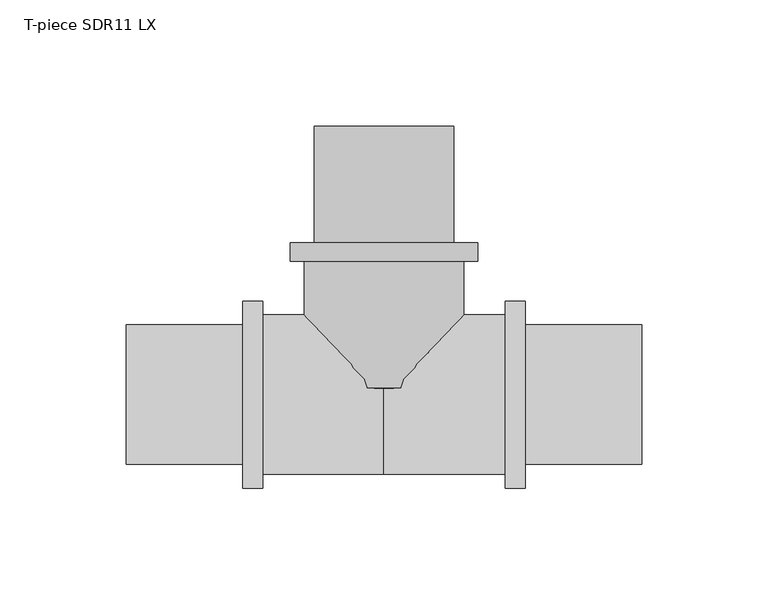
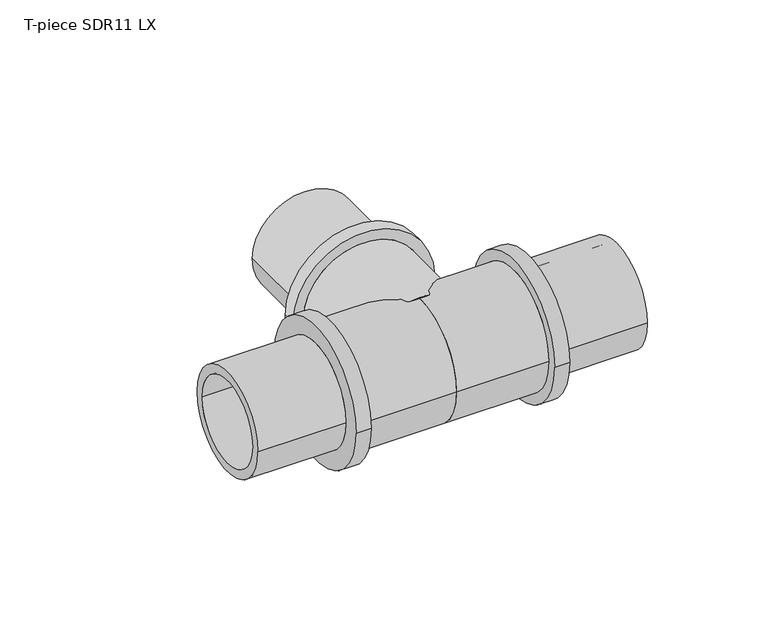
"""IFC4 building model written with IfcOpenShell, lengths in millimetres: pipe fitting geometry, T-piece SDR11 LX : T-piece LX SDR11 LX."""

import ifcopenshell
import ifcopenshell.guid

model = None  # the IFC model being written
_history = None  # IfcOwnerHistory: only IFC2X3 demands one
_inside = {}  # id of a spatial element -> (the spatial element, [elements in it])
_under = {}  # id of a project, library or spatial element -> (it, [spatial elements below it])
_declared = {}  # id of a project -> (the project, [libraries it declares])
_typed = {}  # id of a type object -> (the type object, [elements of that type])
_made_of = {}  # id of a material, layer set ... -> (it, [elements and type objects made of it])


def new_model(schema):
    """Start an empty IFC model of exactly this schema.

    Asked for "IFC4X3", IfcOpenShell would pick the latest addendum, in which some entities
    have other attributes; the version numbers below select the first issue.
    IFC2X3 requires an IfcOwnerHistory on every rooted entity: one is made here for all.
    """
    global model, _history
    if schema == "IFC4X3":
        model = ifcopenshell.file(schema_version=(4, 3, 0, 0))
    else:
        model = ifcopenshell.file(schema=schema)
    _inside.clear()
    _under.clear()
    _declared.clear()
    _typed.clear()
    _made_of.clear()
    _history = None
    if model.schema == "IFC2X3":
        org = make("IfcOrganization", Name="unknown")
        user = make(
            "IfcPersonAndOrganization",
            ThePerson=make("IfcPerson", FamilyName="unknown"),
            TheOrganization=org,
        )
        app = make(
            "IfcApplication",
            ApplicationDeveloper=org,
            Version="unknown",
            ApplicationFullName="unknown",
            ApplicationIdentifier="unknown",
        )
        _history = make(
            "IfcOwnerHistory",
            OwningUser=user,
            OwningApplication=app,
            ChangeAction="ADDED",
            CreationDate=0,
        )
    return model


def make(cls, **values):
    """One entity of the class cls with the attributes given. An attribute that is None is left unset."""
    return model.create_entity(
        cls, **{name: value for name, value in values.items() if value is not None}
    )


def rooted(cls, **values):
    """An entity with a GlobalId (a new one), such as an element, a storey or a relation."""
    return make(cls, GlobalId=ifcopenshell.guid.new(), OwnerHistory=_history, **values)


def si_unit(unit_type, name, prefix=None):
    """IfcSIUnit, for example si_unit("LENGTHUNIT", "METRE", prefix="MILLI")."""
    return make("IfcSIUnit", UnitType=unit_type, Prefix=prefix, Name=name)


def assignment(units):
    """IfcUnitAssignment: the units of a project."""
    return None if units is None else make("IfcUnitAssignment", Units=units)


def point(xyz):
    """IfcCartesianPoint."""
    return None if xyz is None else make("IfcCartesianPoint", Coordinates=xyz)


def direction(xyz):
    """IfcDirection."""
    return None if xyz is None else make("IfcDirection", DirectionRatios=xyz)


def frame(location, z_axis=None, x_axis=None):
    """IfcAxis2Placement3D, a coordinate frame: its origin and axes. An axis left out is left unset."""
    return make(
        "IfcAxis2Placement3D",
        Location=point(location),
        Axis=direction(z_axis),
        RefDirection=direction(x_axis),
    )


def origin():
    """The frame at (0, 0, 0) with its axes left unset."""
    return frame((0.0, 0.0, 0.0))


def place(relative_to, where):
    """IfcLocalPlacement: puts the frame where relative to a parent placement (None: the world)."""
    return make(
        "IfcLocalPlacement", PlacementRelTo=relative_to, RelativePlacement=where
    )


def context(
    kind, dimensions, precision=None, world=None, true_north=None, identifier=None
):
    """IfcGeometricRepresentationContext, for example the 3D "Model" context."""
    return make(
        "IfcGeometricRepresentationContext",
        ContextIdentifier=identifier,
        ContextType=kind,
        CoordinateSpaceDimension=dimensions,
        Precision=precision,
        WorldCoordinateSystem=world,
        TrueNorth=true_north,
    )


def project(units=None, contexts=None):
    """IfcProject with its units and contexts."""
    return rooted(
        "IfcProject",
        Name="project",
        RepresentationContexts=contexts,
        UnitsInContext=assignment(units),
    )


def spatial(cls, under=None, at=None, **own):
    """A site, building, storey or space (cls), placed at a placement, below another one or the project."""
    s = rooted(cls, ObjectPlacement=at, **own)
    if under is not None:
        _under.setdefault(under.id(), (under, []))[1].append(s)
    return s


def polyline(points):
    """IfcPolyline through the points."""
    return make("IfcPolyline", Points=[point(p) for p in points])


def circle_curve(where, radius):
    """IfcCircle in the frame where."""
    return make("IfcCircle", Position=where, Radius=radius)


def ellipse_curve(where, semi_axis1, semi_axis2):
    """IfcEllipse in the frame where."""
    return make(
        "IfcEllipse", Position=where, SemiAxis1=semi_axis1, SemiAxis2=semi_axis2
    )


def trimmed(basis, trim1, trim2, sense, master):
    """IfcTrimmedCurve: the piece of a basis curve between two trims."""
    return make(
        "IfcTrimmedCurve",
        BasisCurve=basis,
        Trim1=trim1,
        Trim2=trim2,
        SenseAgreement=sense,
        MasterRepresentation=master,
    )


def shape(context_of_items, identifier, shape_type, items):
    """IfcShapeRepresentation: the items that make up one representation, for example the "Body"."""
    return make(
        "IfcShapeRepresentation",
        ContextOfItems=context_of_items,
        RepresentationIdentifier=identifier,
        RepresentationType=shape_type,
        Items=items,
    )


def source(mapping_origin, context_of_items, identifier, shape_type, items):
    """IfcRepresentationMap: a shape defined once, which mapped items show again and again."""
    return make(
        "IfcRepresentationMap",
        MappingOrigin=mapping_origin,
        MappedRepresentation=shape(context_of_items, identifier, shape_type, items),
    )


def transform(
    local_origin,
    x_axis=None,
    y_axis=None,
    z_axis=None,
    scale=None,
    scale2=None,
    scale3=None,
    uniform=True,
):
    """IfcCartesianTransformationOperator3D, or its non-uniform kind. x_axis, y_axis, z_axis: its Axis1, 2, 3."""
    if uniform:
        return make(
            "IfcCartesianTransformationOperator3D",
            Axis1=direction(x_axis),
            Axis2=direction(y_axis),
            LocalOrigin=point(local_origin),
            Scale=scale,
            Axis3=direction(z_axis),
        )
    return make(
        "IfcCartesianTransformationOperator3DnonUniform",
        Axis1=direction(x_axis),
        Axis2=direction(y_axis),
        LocalOrigin=point(local_origin),
        Scale=scale,
        Axis3=direction(z_axis),
        Scale2=scale2,
        Scale3=scale3,
    )


def mapped(mapping_source, mapping_target):
    """IfcMappedItem: shows the shape of a source again, moved by a transform."""
    return make(
        "IfcMappedItem", MappingSource=mapping_source, MappingTarget=mapping_target
    )


def made_of(thing, what):
    """Note that an element or type object is made of a material, layer set ...; save() writes the relation."""
    if what is not None:
        _made_of.setdefault(what.id(), (what, []))[1].append(thing)
    return thing


def element(
    cls,
    number,
    at=None,
    inside=None,
    cuts=None,
    type_object=None,
    material=None,
    context=None,
    identifier="Body",
    shape_type=None,
    held_by="IfcProductDefinitionShape",
    body=None,
    shapes=None,
    **own,
):
    """One element of the class cls, such as IfcWall. Its Tag is "e" and its number.

    at: its placement. inside: the storey or other place that contains it. cuts: it is an
    opening in that element (IfcRelVoidsElement). A single representation is given by context,
    identifier, shape_type and body (its items); several are given by shapes. held_by: the class
    of the entity that holds the representations. save() writes the other relations.
    """
    e = rooted(cls, Tag="e%d" % number, ObjectPlacement=at, **own)
    if body is not None:
        shapes = [shape(context, identifier, shape_type, body)]
    if shapes is not None:
        e.Representation = make(held_by, Representations=shapes)
    if inside is not None:
        _inside.setdefault(inside.id(), (inside, []))[1].append(e)
    if cuts is not None:
        rooted(
            "IfcRelVoidsElement", RelatingBuildingElement=cuts, RelatedOpeningElement=e
        )
    if type_object is not None:
        _typed.setdefault(type_object.id(), (type_object, []))[1].append(e)
    return made_of(e, material)


def aggregate(whole, parts):
    """IfcRelAggregates: a whole, such as a stair, and the parts it consists of."""
    return rooted("IfcRelAggregates", RelatingObject=whole, RelatedObjects=parts)


def save(model, path):
    """Write the relations noted so far, then the file.

    IfcRelAggregates (storeys below a building ...), IfcRelContainedInSpatialStructure (elements
    in a storey), IfcRelDefinesByType, IfcRelAssociatesMaterial and IfcRelDeclares: one each for
    every whole, place, type object, material and project.
    """
    for whole, parts in _under.values():
        aggregate(whole, parts)
    for where, things in _inside.values():
        rooted(
            "IfcRelContainedInSpatialStructure",
            RelatedElements=things,
            RelatingStructure=where,
        )
    for kind, things in _typed.values():
        rooted("IfcRelDefinesByType", RelatedObjects=things, RelatingType=kind)
    for what, things in _made_of.values():
        rooted("IfcRelAssociatesMaterial", RelatedObjects=things, RelatingMaterial=what)
    for by, libraries in _declared.values():
        rooted("IfcRelDeclares", RelatingContext=by, RelatedDefinitions=libraries)
    model.write(path)


def plane_surface(at):
    """IfcPlane: the flat surface through the origin of the frame at, square to its z axis."""
    return make("IfcPlane", Position=at)


def cylinder_surface(at, radius):
    """IfcCylindricalSurface: all points at the distance radius from the z axis of the frame at."""
    return make("IfcCylindricalSurface", Position=at, Radius=radius)


def revolved_surface(curve, axis_point, axis_direction):
    """IfcSurfaceOfRevolution: the curve turned about the line through axis_point along axis_direction."""
    return make(
        "IfcSurfaceOfRevolution",
        SweptCurve=make("IfcArbitraryOpenProfileDef", ProfileType="CURVE", Curve=curve),
        AxisPosition=make("IfcAxis1Placement", Location=point(axis_point), Axis=direction(axis_direction)),
    )


def advanced_brep(points, edges, surfaces, faces):
    """IfcAdvancedBrep: a solid bounded by faces that lie on surfaces and meet in shared edges.

    An edge is (start, end): straight between two places in points (the first is 0);
    or (start, end, curve); or (start, end, curve, False) where it runs against its curve.
    A face is (place in surfaces, loops), or (place, loops, False) where it looks against
    its surface's normal. A loop lists edges by number (the first is 1), with a minus sign
    where the edge is run from its end to its start. The first loop is the outer one.
    """
    corners = [point(p) for p in points]
    vertices = [make("IfcVertexPoint", VertexGeometry=c) for c in corners]
    made = []
    for start, end, *more in edges:
        made.append(
            make(
                "IfcEdgeCurve",
                EdgeStart=vertices[start],
                EdgeEnd=vertices[end],
                EdgeGeometry=more[0] if more else make("IfcPolyline", Points=[corners[start], corners[end]]),
                SameSense=more[1] if len(more) > 1 else True,
            )
        )
    hull = []
    for where, loops, *sense in faces:
        bounds = []
        for j, loop in enumerate(loops):
            ring = [make("IfcOrientedEdge", EdgeElement=made[abs(k) - 1], Orientation=k > 0) for k in loop]
            bounds.append(
                make(
                    "IfcFaceOuterBound" if j == 0 else "IfcFaceBound",
                    Bound=make("IfcEdgeLoop", EdgeList=ring),
                    Orientation=True,
                )
            )
        hull.append(make("IfcAdvancedFace", Bounds=bounds, FaceSurface=surfaces[where], SameSense=sense[0] if sense else True))
    return make("IfcAdvancedBrep", Outer=make("IfcClosedShell", CfsFaces=hull))


def t_piece_sdr11_lx_81dca7c0(model_context):
    return source(origin(), model_context, "Body", "AdvancedBrep", [
        advanced_brep(
        [(31.5, 2.6805039, 0.0), (-31.5, 2.6805039, 0.0), (-31.5, 52.8, 0.0), (31.5, 52.8, 0.0), (22.75, 106.0, 0.0), (-22.75, 106.0, 0.0), (-22.75, 0.0, 0.0), (22.75, 0.0, 0.0), (27.55, 60.0, 0.0), (-27.55, 60.0, 0.0), (-27.55, 106.0, 0.0), (27.55, 106.0, 0.0), (37.0, 52.8, 0.0), (-37.0, 52.8, 0.0), (-37.0, 60.0, 0.0), (37.0, 60.0, 0.0)],
        [
            (0, 1, circle_curve(frame((0.0, 2.6805039, 0.0), z_axis=(0.0, 1.0, 0.0), x_axis=(-1.0, 0.0, 0.0)), 31.5)),
            (1, 2),
            (2, 3, circle_curve(frame((0.0, 52.8, 0.0), z_axis=(0.0, -1.0, 0.0), x_axis=(-1.0, 0.0, 0.0)), 31.5)),
            (3, 0),
            (4, 5, circle_curve(frame((0.0, 106.0, 0.0), z_axis=(0.0, 1.0, 0.0), x_axis=(-1.0, 0.0, 0.0)), 22.75)),
            (5, 6),
            (6, 7, circle_curve(frame((0.0, 0.0, 0.0), z_axis=(0.0, -1.0, 0.0), x_axis=(-1.0, 0.0, 0.0)), 22.75)),
            (7, 4),
            (8, 9, circle_curve(frame((0.0, 60.0, 0.0), z_axis=(0.0, 1.0, 0.0), x_axis=(-1.0, 0.0, 0.0)), 27.55)),
            (9, 10),
            (10, 11, circle_curve(frame((0.0, 106.0, 0.0), z_axis=(0.0, -1.0, 0.0), x_axis=(-1.0, 0.0, 0.0)), 27.55)),
            (11, 8),
            (12, 13, circle_curve(frame((0.0, 52.8, 0.0), z_axis=(0.0, 1.0, 0.0), x_axis=(-1.0, 0.0, 0.0)), 37.0)),
            (13, 14),
            (14, 15, circle_curve(frame((0.0, 60.0, 0.0), z_axis=(0.0, -1.0, 0.0), x_axis=(-1.0, 0.0, 0.0)), 37.0)),
            (15, 12),
            (12, 13, circle_curve(frame((0.0, 52.8, 0.0), z_axis=(0.0, -1.0, 0.0), x_axis=(1.0, 0.0, 0.0)), 37.0)),
            (2, 3, circle_curve(frame((0.0, 52.8, 0.0), z_axis=(0.0, 1.0, 0.0), x_axis=(1.0, 0.0, 0.0)), 31.5)),
            (1, 0, circle_curve(frame((0.0, 2.6805039, 0.0), z_axis=(0.0, 1.0, 0.0), x_axis=(1.0, 0.0, 0.0)), 31.5)),
            (5, 4, circle_curve(frame((0.0, 106.0, 0.0), z_axis=(0.0, 1.0, 0.0), x_axis=(1.0, 0.0, 0.0)), 22.75)),
            (7, 6, circle_curve(frame((0.0, 0.0, 0.0), z_axis=(0.0, -1.0, 0.0), x_axis=(1.0, 0.0, 0.0)), 22.75)),
            (10, 11, circle_curve(frame((0.0, 106.0, 0.0), z_axis=(0.0, 1.0, 0.0), x_axis=(1.0, 0.0, 0.0)), 27.55)),
            (9, 8, circle_curve(frame((0.0, 60.0, 0.0), z_axis=(0.0, 1.0, 0.0), x_axis=(1.0, 0.0, 0.0)), 27.55)),
            (14, 15, circle_curve(frame((0.0, 60.0, 0.0), z_axis=(0.0, 1.0, 0.0), x_axis=(1.0, 0.0, 0.0)), 37.0)),
            (6, 1, circle_curve(frame((-17.9962802, 31.1392381, 0.0), z_axis=(0.0, 0.0, -1.0), x_axis=(0.0, -1.0, 0.0)), 31.5)),
            (0, 7, circle_curve(frame((17.9962802, 31.1392381, 0.0), z_axis=(0.0, 0.0, -1.0), x_axis=(0.0, -1.0, 0.0)), 31.5)),
        ],
        [
            cylinder_surface(frame((0.0, 0.0, 0.0), z_axis=(0.0, -1.0, 0.0), x_axis=(-1.0, 0.0, 0.0)), 31.5),
            revolved_surface(polyline([(-22.75, 0.0, 0.0), (-22.75, 106.0, 0.0)]), (0.0, 0.0, 0.0), (0.0, -1.0, 0.0)),
            cylinder_surface(frame((0.0, 0.0, 0.0), z_axis=(0.0, -1.0, 0.0), x_axis=(-1.0, 0.0, 0.0)), 27.55),
            cylinder_surface(frame((0.0, 0.0, 0.0), z_axis=(0.0, -1.0, 0.0), x_axis=(-1.0, 0.0, 0.0)), 37.0),
            plane_surface(frame((0.0, 52.8, 0.0), z_axis=(0.0, -1.0, 0.0), x_axis=(1.0, 0.0, 0.0))),
            cylinder_surface(frame((0.0, 0.0, 0.0), z_axis=(0.0, -1.0, 0.0), x_axis=(1.0, 0.0, 0.0)), 31.5),
            revolved_surface(polyline([(22.75, 0.0, 0.0), (22.75, 106.0, 0.0)]), (0.0, 0.0, 0.0), (0.0, -1.0, 0.0)),
            plane_surface(frame((0.0, 106.0, 0.0), z_axis=(0.0, 1.0, 0.0), x_axis=(1.0, 0.0, 0.0))),
            cylinder_surface(frame((0.0, 0.0, 0.0), z_axis=(0.0, -1.0, 0.0), x_axis=(1.0, 0.0, 0.0)), 27.55),
            plane_surface(frame((0.0, 60.0, 0.0), z_axis=(0.0, 1.0, 0.0), x_axis=(1.0, 0.0, 0.0))),
            cylinder_surface(frame((0.0, 0.0, 0.0), z_axis=(0.0, -1.0, 0.0), x_axis=(1.0, 0.0, 0.0)), 37.0),
            revolved_surface(trimmed(ellipse_curve(frame((-17.9962802, 31.1392381, 0.0), z_axis=(0.0, 0.0, 1.0), x_axis=(0.0, -1.0, 0.0)), 31.5, 31.5), [point((-31.5, 2.6805039, 0.0))], [point((-22.75, 0.0, 0.0))], True, "CARTESIAN"), (0.0, 0.0, 0.0), (0.0, -1.0, 0.0)),
            revolved_surface(trimmed(ellipse_curve(frame((17.9962802, 31.1392381, 0.0), z_axis=(0.0, 0.0, -1.0), x_axis=(0.0, -1.0, 0.0)), 31.5, 31.5), [point((31.5, 2.6805039, 0.0))], [point((22.75, 0.0, 0.0))], True, "CARTESIAN"), (0.0, 0.0, 0.0), (0.0, -1.0, 0.0)),
        ],
        [
            (0, [[1, 2, 3, 4]]),
            (1, [[5, 6, 7, 8]]),
            (2, [[9, 10, 11, 12]]),
            (3, [[13, 14, 15, 16]]),
            (4, [[17, -13], [18, -3]]),
            (5, [[19, -4, -18, -2]]),
            (6, [[20, -8, 21, -6]]),
            (7, [[22, -11], [-20, -5]]),
            (8, [[23, -12, -22, -10]]),
            (9, [[24, -15], [-23, -9]]),
            (10, [[-17, -16, -24, -14]]),
            (11, [[-7, 25, -1, 26]]),
            (12, [[-21, -26, -19, -25]]),
        ],
    ),
        advanced_brep(
        [(48.0, 31.5, 0.0), (48.0, -31.5, 0.0), (0.0, -31.5, 0.0), (0.0, 31.5, 0.0), (0.0, 22.75, 0.0), (0.0, -22.75, 0.0), (101.8, -22.75, 0.0), (101.8, 22.75, 0.0), (101.8, 27.55, 0.0), (101.8, -27.55, 0.0), (55.8, -27.55, 0.0), (55.8, 27.55, 0.0), (55.8, 37.0, 0.0), (55.8, -37.0, 0.0), (48.0, -37.0, 0.0), (48.0, 37.0, 0.0)],
        [
            (0, 1, circle_curve(frame((48.0, 0.0, 0.0), z_axis=(-1.0, 0.0, 0.0), x_axis=(0.0, -1.0, 0.0)), 31.5)),
            (1, 2),
            (2, 3, circle_curve(frame((0.0, 0.0, 0.0), z_axis=(1.0, 0.0, 0.0), x_axis=(0.0, -1.0, 0.0)), 31.5)),
            (3, 0),
            (4, 5, circle_curve(frame((0.0, 0.0, 0.0), z_axis=(-1.0, 0.0, 0.0), x_axis=(0.0, -1.0, 0.0)), 22.75)),
            (5, 6),
            (6, 7, circle_curve(frame((101.8, 0.0, 0.0), z_axis=(1.0, 0.0, 0.0), x_axis=(0.0, -1.0, 0.0)), 22.75)),
            (7, 4),
            (8, 9, circle_curve(frame((101.8, 0.0, 0.0), z_axis=(-1.0, 0.0, 0.0), x_axis=(0.0, -1.0, 0.0)), 27.55)),
            (9, 10),
            (10, 11, circle_curve(frame((55.8, 0.0, 0.0), z_axis=(1.0, 0.0, 0.0), x_axis=(0.0, -1.0, 0.0)), 27.55)),
            (11, 8),
            (12, 13, circle_curve(frame((55.8, 0.0, 0.0), z_axis=(-1.0, 0.0, 0.0), x_axis=(0.0, -1.0, 0.0)), 37.0)),
            (13, 14),
            (14, 15, circle_curve(frame((48.0, 0.0, 0.0), z_axis=(1.0, 0.0, 0.0), x_axis=(0.0, -1.0, 0.0)), 37.0)),
            (15, 12),
            (14, 15, circle_curve(frame((48.0, 0.0, 0.0), z_axis=(-1.0, 0.0, 0.0), x_axis=(0.0, 1.0, 0.0)), 37.0)),
            (0, 1, circle_curve(frame((48.0, 0.0, 0.0), z_axis=(1.0, 0.0, 0.0), x_axis=(0.0, 1.0, 0.0)), 31.5)),
            (3, 2, circle_curve(frame((0.0, 0.0, 0.0), z_axis=(1.0, 0.0, 0.0), x_axis=(0.0, 1.0, 0.0)), 31.5)),
            (4, 5, circle_curve(frame((0.0, 0.0, 0.0), z_axis=(1.0, 0.0, 0.0), x_axis=(0.0, 1.0, 0.0)), 22.75)),
            (7, 6, circle_curve(frame((101.8, 0.0, 0.0), z_axis=(1.0, 0.0, 0.0), x_axis=(0.0, 1.0, 0.0)), 22.75)),
            (8, 9, circle_curve(frame((101.8, 0.0, 0.0), z_axis=(1.0, 0.0, 0.0), x_axis=(0.0, 1.0, 0.0)), 27.55)),
            (11, 10, circle_curve(frame((55.8, 0.0, 0.0), z_axis=(1.0, 0.0, 0.0), x_axis=(0.0, 1.0, 0.0)), 27.55)),
            (12, 13, circle_curve(frame((55.8, 0.0, 0.0), z_axis=(1.0, 0.0, 0.0), x_axis=(0.0, 1.0, 0.0)), 37.0)),
        ],
        [
            cylinder_surface(frame((0.0, 0.0, 0.0), z_axis=(1.0, 0.0, 0.0), x_axis=(0.0, -1.0, 0.0)), 31.5),
            revolved_surface(polyline([(101.8, -22.75, 0.0), (0.0, -22.75, 0.0)]), (0.0, 0.0, 0.0), (1.0, 0.0, 0.0)),
            cylinder_surface(frame((0.0, 0.0, 0.0), z_axis=(1.0, 0.0, 0.0), x_axis=(0.0, -1.0, 0.0)), 27.55),
            cylinder_surface(frame((0.0, 0.0, 0.0), z_axis=(1.0, 0.0, 0.0), x_axis=(0.0, -1.0, 0.0)), 37.0),
            plane_surface(frame((48.0, 0.0, 0.0), z_axis=(-1.0, 0.0, 0.0), x_axis=(0.0, 1.0, 0.0))),
            cylinder_surface(frame((0.0, 0.0, 0.0), z_axis=(1.0, 0.0, 0.0), x_axis=(0.0, 1.0, 0.0)), 31.5),
            plane_surface(frame((0.0, 0.0, 0.0), z_axis=(-1.0, 0.0, 0.0), x_axis=(0.0, 1.0, 0.0))),
            revolved_surface(polyline([(101.8, 22.75, 0.0), (0.0, 22.75, 0.0)]), (0.0, 0.0, 0.0), (1.0, 0.0, 0.0)),
            plane_surface(frame((101.8, 0.0, 0.0), z_axis=(1.0, 0.0, 0.0), x_axis=(0.0, 1.0, 0.0))),
            cylinder_surface(frame((0.0, 0.0, 0.0), z_axis=(1.0, 0.0, 0.0), x_axis=(0.0, 1.0, 0.0)), 27.55),
            plane_surface(frame((55.8, 0.0, 0.0), z_axis=(1.0, 0.0, 0.0), x_axis=(0.0, 1.0, 0.0))),
            cylinder_surface(frame((0.0, 0.0, 0.0), z_axis=(1.0, 0.0, 0.0), x_axis=(0.0, 1.0, 0.0)), 37.0),
        ],
        [
            (0, [[1, 2, 3, 4]]),
            (1, [[5, 6, 7, 8]]),
            (2, [[9, 10, 11, 12]]),
            (3, [[13, 14, 15, 16]]),
            (4, [[17, -15], [18, -1]]),
            (5, [[-18, -4, 19, -2]]),
            (6, [[-19, -3], [20, -5]]),
            (7, [[-20, -8, 21, -6]]),
            (8, [[22, -9], [-21, -7]]),
            (9, [[-22, -12, 23, -10]]),
            (10, [[24, -13], [-23, -11]]),
            (11, [[-24, -16, -17, -14]]),
        ],
    ),
        advanced_brep(
        [(0.0, 31.5, 0.0), (0.0, -31.5, 0.0), (-48.0, -31.5, 0.0), (-48.0, 31.5, 0.0), (-101.8, 22.75, 0.0), (-101.8, -22.75, 0.0), (0.0, -22.75, 0.0), (0.0, 22.75, 0.0), (-55.8, 27.55, 0.0), (-55.8, -27.55, 0.0), (-101.8, -27.55, 0.0), (-101.8, 27.55, 0.0), (-48.0, 37.0, 0.0), (-48.0, -37.0, 0.0), (-55.8, -37.0, 0.0), (-55.8, 37.0, 0.0)],
        [
            (0, 1, circle_curve(frame((0.0, 0.0, 0.0), z_axis=(-1.0, 0.0, 0.0), x_axis=(0.0, -1.0, 0.0)), 31.5)),
            (1, 2),
            (2, 3, circle_curve(frame((-48.0, 0.0, 0.0), z_axis=(1.0, 0.0, 0.0), x_axis=(0.0, -1.0, 0.0)), 31.5)),
            (3, 0),
            (4, 5, circle_curve(frame((-101.8, 0.0, 0.0), z_axis=(-1.0, 0.0, 0.0), x_axis=(0.0, -1.0, 0.0)), 22.75)),
            (5, 6),
            (6, 7, circle_curve(frame((0.0, 0.0, 0.0), z_axis=(1.0, 0.0, 0.0), x_axis=(0.0, -1.0, 0.0)), 22.75)),
            (7, 4),
            (8, 9, circle_curve(frame((-55.8, 0.0, 0.0), z_axis=(-1.0, 0.0, 0.0), x_axis=(0.0, -1.0, 0.0)), 27.55)),
            (9, 10),
            (10, 11, circle_curve(frame((-101.8, 0.0, 0.0), z_axis=(1.0, 0.0, 0.0), x_axis=(0.0, -1.0, 0.0)), 27.55)),
            (11, 8),
            (12, 13, circle_curve(frame((-48.0, 0.0, 0.0), z_axis=(-1.0, 0.0, 0.0), x_axis=(0.0, -1.0, 0.0)), 37.0)),
            (13, 14),
            (14, 15, circle_curve(frame((-55.8, 0.0, 0.0), z_axis=(1.0, 0.0, 0.0), x_axis=(0.0, -1.0, 0.0)), 37.0)),
            (15, 12),
            (12, 13, circle_curve(frame((-48.0, 0.0, 0.0), z_axis=(1.0, 0.0, 0.0), x_axis=(0.0, 1.0, 0.0)), 37.0)),
            (2, 3, circle_curve(frame((-48.0, 0.0, 0.0), z_axis=(-1.0, 0.0, 0.0), x_axis=(0.0, 1.0, 0.0)), 31.5)),
            (1, 0, circle_curve(frame((0.0, 0.0, 0.0), z_axis=(-1.0, 0.0, 0.0), x_axis=(0.0, 1.0, 0.0)), 31.5)),
            (6, 7, circle_curve(frame((0.0, 0.0, 0.0), z_axis=(-1.0, 0.0, 0.0), x_axis=(0.0, 1.0, 0.0)), 22.75)),
            (5, 4, circle_curve(frame((-101.8, 0.0, 0.0), z_axis=(-1.0, 0.0, 0.0), x_axis=(0.0, 1.0, 0.0)), 22.75)),
            (10, 11, circle_curve(frame((-101.8, 0.0, 0.0), z_axis=(-1.0, 0.0, 0.0), x_axis=(0.0, 1.0, 0.0)), 27.55)),
            (9, 8, circle_curve(frame((-55.8, 0.0, 0.0), z_axis=(-1.0, 0.0, 0.0), x_axis=(0.0, 1.0, 0.0)), 27.55)),
            (14, 15, circle_curve(frame((-55.8, 0.0, 0.0), z_axis=(-1.0, 0.0, 0.0), x_axis=(0.0, 1.0, 0.0)), 37.0)),
        ],
        [
            cylinder_surface(frame((0.0, 0.0, 0.0), z_axis=(1.0, 0.0, 0.0), x_axis=(0.0, -1.0, 0.0)), 31.5),
            revolved_surface(polyline([(0.0, -22.75, 0.0), (-101.8, -22.75, 0.0)]), (0.0, 0.0, 0.0), (1.0, 0.0, 0.0)),
            cylinder_surface(frame((0.0, 0.0, 0.0), z_axis=(1.0, 0.0, 0.0), x_axis=(0.0, -1.0, 0.0)), 27.55),
            cylinder_surface(frame((0.0, 0.0, 0.0), z_axis=(1.0, 0.0, 0.0), x_axis=(0.0, -1.0, 0.0)), 37.0),
            plane_surface(frame((-48.0, 0.0, 0.0), z_axis=(1.0, 0.0, 0.0), x_axis=(0.0, 1.0, 0.0))),
            cylinder_surface(frame((0.0, 0.0, 0.0), z_axis=(1.0, 0.0, 0.0), x_axis=(0.0, 1.0, 0.0)), 31.5),
            plane_surface(frame((0.0, 0.0, 0.0), z_axis=(1.0, 0.0, 0.0), x_axis=(0.0, 1.0, 0.0))),
            revolved_surface(polyline([(0.0, 22.75, 0.0), (-101.8, 22.75, 0.0)]), (0.0, 0.0, 0.0), (1.0, 0.0, 0.0)),
            plane_surface(frame((-101.8, 0.0, 0.0), z_axis=(-1.0, 0.0, 0.0), x_axis=(0.0, 1.0, 0.0))),
            cylinder_surface(frame((0.0, 0.0, 0.0), z_axis=(1.0, 0.0, 0.0), x_axis=(0.0, 1.0, 0.0)), 27.55),
            plane_surface(frame((-55.8, 0.0, 0.0), z_axis=(-1.0, 0.0, 0.0), x_axis=(0.0, 1.0, 0.0))),
            cylinder_surface(frame((0.0, 0.0, 0.0), z_axis=(1.0, 0.0, 0.0), x_axis=(0.0, 1.0, 0.0)), 37.0),
        ],
        [
            (0, [[1, 2, 3, 4]]),
            (1, [[5, 6, 7, 8]]),
            (2, [[9, 10, 11, 12]]),
            (3, [[13, 14, 15, 16]]),
            (4, [[17, -13], [18, -3]]),
            (5, [[19, -4, -18, -2]]),
            (6, [[-19, -1], [20, -7]]),
            (7, [[21, -8, -20, -6]]),
            (8, [[22, -11], [-21, -5]]),
            (9, [[23, -12, -22, -10]]),
            (10, [[24, -15], [-23, -9]]),
            (11, [[-17, -16, -24, -14]]),
        ],
    ),
    ])


if __name__ == "__main__":
    model = new_model("IFC4")
    model_context = context("Model", 3, world=origin())
    ifc_project = project(units=[si_unit("LENGTHUNIT", "METRE", prefix="MILLI")], contexts=[model_context])
    site = spatial("IfcSite", under=ifc_project)
    building = spatial("IfcBuilding", under=site)
    placement = place(None, origin())
    t_piece_sdr11_lx_shape = t_piece_sdr11_lx_81dca7c0(model_context)
    element("IfcPipeFitting", 1, ObjectType="T-piece SDR11 LX : T-piece LX SDR11 LX", at=placement, inside=building, context=model_context, shape_type="MappedRepresentation", body=[
        mapped(t_piece_sdr11_lx_shape, transform((0.0, 0.0, 0.0), x_axis=(1.0, 0.0, 0.0), y_axis=(0.0, 1.0, 0.0), z_axis=(0.0, 0.0, 1.0))),
    ])
    save(model, "model.ifc")
